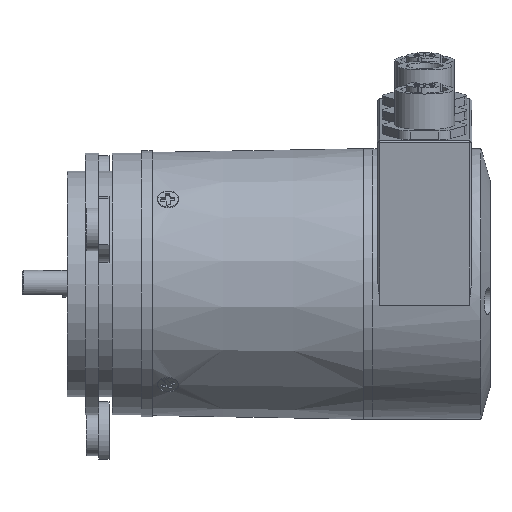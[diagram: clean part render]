
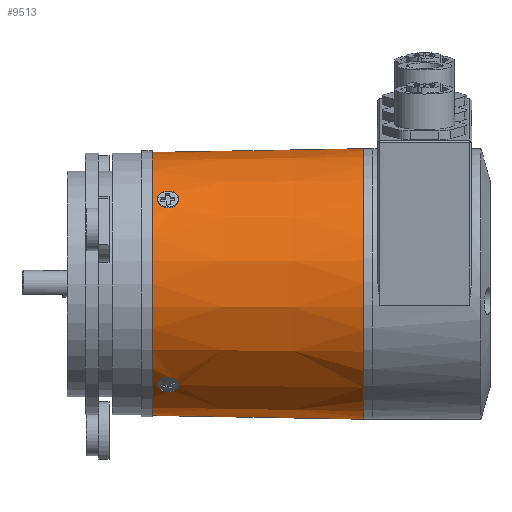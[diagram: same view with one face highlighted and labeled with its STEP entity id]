
A CAD part, left-side view. The second image highlights one B-rep face of the part: STEP entity #9513.
In plain terms, the highlighted conical face has half-angle 1 degrees and reference radius 30 mm.
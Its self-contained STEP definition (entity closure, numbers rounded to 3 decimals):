
#58=B_SPLINE_CURVE_WITH_KNOTS('',3,(#15645,#15646,#15647,#15648,#15649,
#15650,#15651),.UNSPECIFIED.,.F.,.F.,(4,1,1,1,4),(0.,0.25,0.5,0.75,1.),
 .UNSPECIFIED.);
#62=B_SPLINE_CURVE_WITH_KNOTS('',3,(#15713,#15714,#15715,#15716),
 .UNSPECIFIED.,.F.,.F.,(4,4),(0.,1.),.UNSPECIFIED.);
#63=B_SPLINE_CURVE_WITH_KNOTS('',3,(#15718,#15719,#15720,#15721,#15722,
#15723,#15724),.UNSPECIFIED.,.F.,.F.,(4,1,1,1,4),(0.,0.25,0.5,0.75,1.),
 .UNSPECIFIED.);
#66=B_SPLINE_CURVE_WITH_KNOTS('',3,(#15786,#15787,#15788,#15789,#15790,
#15791,#15792),.UNSPECIFIED.,.F.,.F.,(4,1,1,1,4),(0.,0.25,0.5,0.75,1.),
 .UNSPECIFIED.);
#69=B_SPLINE_CURVE_WITH_KNOTS('',3,(#15864,#15865,#15866,#15867,#15868,
#15869,#15870),.UNSPECIFIED.,.F.,.F.,(4,1,1,1,4),(0.,0.25,0.5,0.75,1.),
 .UNSPECIFIED.);
#70=B_SPLINE_CURVE_WITH_KNOTS('',3,(#15872,#15873,#15874,#15875),
 .UNSPECIFIED.,.F.,.F.,(4,4),(0.,1.),.UNSPECIFIED.);
#84=B_SPLINE_CURVE_WITH_KNOTS('',3,(#16076,#16077,#16078,#16079,#16080,
#16081,#16082),.UNSPECIFIED.,.F.,.F.,(4,1,1,1,4),(0.,0.25,0.5,0.75,1.),
 .UNSPECIFIED.);
#85=B_SPLINE_CURVE_WITH_KNOTS('',3,(#16083,#16084,#16085,#16086,#16087,
#16088,#16089),.UNSPECIFIED.,.F.,.F.,(4,1,1,1,4),(0.,0.25,0.5,0.75,1.),
 .UNSPECIFIED.);
#86=B_SPLINE_CURVE_WITH_KNOTS('',3,(#16090,#16091,#16092,#16093,#16094,
#16095,#16096),.UNSPECIFIED.,.F.,.F.,(4,1,1,1,4),(0.,0.25,0.5,0.75,1.),
 .UNSPECIFIED.);
#87=B_SPLINE_CURVE_WITH_KNOTS('',3,(#16098,#16099,#16100,#16101),
 .UNSPECIFIED.,.F.,.F.,(4,4),(0.,1.),.UNSPECIFIED.);
#88=B_SPLINE_CURVE_WITH_KNOTS('',3,(#16106,#16107,#16108,#16109),
 .UNSPECIFIED.,.F.,.F.,(4,4),(0.,1.),.UNSPECIFIED.);
#89=B_SPLINE_CURVE_WITH_KNOTS('',3,(#16111,#16112,#16113,#16114,#16115,
#16116,#16117),.UNSPECIFIED.,.F.,.F.,(4,1,1,1,4),(0.,0.25,0.5,0.75,1.),
 .UNSPECIFIED.);
#105=CONICAL_SURFACE('',#10579,30.,0.017);
#3175=ORIENTED_EDGE('',*,*,#5025,.T.);
#3176=ORIENTED_EDGE('',*,*,#5070,.T.);
#3177=ORIENTED_EDGE('',*,*,#5014,.T.);
#3178=ORIENTED_EDGE('',*,*,#5071,.T.);
#3179=ORIENTED_EDGE('',*,*,#5072,.T.);
#3180=ORIENTED_EDGE('',*,*,#5073,.T.);
#3181=ORIENTED_EDGE('',*,*,#5020,.T.);
#3182=ORIENTED_EDGE('',*,*,#5019,.T.);
#3183=ORIENTED_EDGE('',*,*,#5074,.F.);
#3184=ORIENTED_EDGE('',*,*,#5075,.T.);
#3185=ORIENTED_EDGE('',*,*,#5076,.T.);
#3186=ORIENTED_EDGE('',*,*,#5077,.T.);
#3187=ORIENTED_EDGE('',*,*,#5031,.T.);
#3188=ORIENTED_EDGE('',*,*,#5030,.T.);
#5014=EDGE_CURVE('',#6102,#6101,#58,.T.);
#5019=EDGE_CURVE('',#6107,#6106,#62,.T.);
#5020=EDGE_CURVE('',#6108,#6107,#63,.T.);
#5025=EDGE_CURVE('',#6113,#6112,#66,.T.);
#5030=EDGE_CURVE('',#6118,#6117,#69,.T.);
#5031=EDGE_CURVE('',#6119,#6118,#70,.T.);
#5070=EDGE_CURVE('',#6112,#6113,#84,.T.);
#5071=EDGE_CURVE('',#6101,#6102,#85,.T.);
#5072=EDGE_CURVE('',#6106,#6152,#86,.T.);
#5073=EDGE_CURVE('',#6152,#6108,#87,.T.);
#5074=EDGE_CURVE('',#6153,#6153,#6852,.T.);
#5075=EDGE_CURVE('',#6154,#6154,#6853,.T.);
#5076=EDGE_CURVE('',#6117,#6155,#88,.T.);
#5077=EDGE_CURVE('',#6155,#6119,#89,.T.);
#6101=VERTEX_POINT('',#15644);
#6102=VERTEX_POINT('',#15652);
#6106=VERTEX_POINT('',#15712);
#6107=VERTEX_POINT('',#15717);
#6108=VERTEX_POINT('',#15725);
#6112=VERTEX_POINT('',#15785);
#6113=VERTEX_POINT('',#15793);
#6117=VERTEX_POINT('',#15863);
#6118=VERTEX_POINT('',#15871);
#6119=VERTEX_POINT('',#15876);
#6152=VERTEX_POINT('',#16097);
#6153=VERTEX_POINT('',#16103);
#6154=VERTEX_POINT('',#16105);
#6155=VERTEX_POINT('',#16110);
#6852=CIRCLE('',#10580,29.181);
#6853=CIRCLE('',#10581,30.);
#7539=EDGE_LOOP('',(#3175,#3176));
#7540=EDGE_LOOP('',(#3177,#3178));
#7541=EDGE_LOOP('',(#3179,#3180,#3181,#3182));
#7542=EDGE_LOOP('',(#3183));
#7543=EDGE_LOOP('',(#3184));
#7544=EDGE_LOOP('',(#3185,#3186,#3187,#3188));
#8457=FACE_BOUND('',#7539,.T.);
#8458=FACE_BOUND('',#7540,.T.);
#8459=FACE_BOUND('',#7541,.T.);
#8460=FACE_BOUND('',#7542,.T.);
#8461=FACE_BOUND('',#7543,.T.);
#8462=FACE_BOUND('',#7544,.T.);
#9513=ADVANCED_FACE('',(#8457,#8458,#8459,#8460,#8461,#8462),#105,.T.);
#10579=AXIS2_PLACEMENT_3D('',#16075,#12664,#12665);
#10580=AXIS2_PLACEMENT_3D('',#16102,#12666,#12667);
#10581=AXIS2_PLACEMENT_3D('',#16104,#12668,#12669);
#12664=DIRECTION('',(0.,-1.,0.));
#12665=DIRECTION('',(-0.643,0.,-0.766));
#12666=DIRECTION('',(0.,1.,0.));
#12667=DIRECTION('',(-0.643,0.,-0.766));
#12668=DIRECTION('',(0.,1.,0.));
#12669=DIRECTION('',(-0.643,0.,-0.766));
#15644=CARTESIAN_POINT('',(1.081,-4.246,-9.866));
#15645=CARTESIAN_POINT('',(3.7,-6.975,-6.819));
#15646=CARTESIAN_POINT('',(3.909,-6.461,-6.516));
#15647=CARTESIAN_POINT('',(4.059,-5.144,-6.257));
#15648=CARTESIAN_POINT('',(3.393,-3.439,-7.157));
#15649=CARTESIAN_POINT('',(2.117,-3.006,-8.737));
#15650=CARTESIAN_POINT('',(1.33,-3.73,-9.594));
#15651=CARTESIAN_POINT('',(1.081,-4.246,-9.866));
#15652=CARTESIAN_POINT('',(3.7,-6.975,-6.819));
#15712=CARTESIAN_POINT('',(-40.004,-3.891,-10.838));
#15713=CARTESIAN_POINT('',(-38.727,-3.222,-11.959));
#15714=CARTESIAN_POINT('',(-39.231,-3.223,-11.536));
#15715=CARTESIAN_POINT('',(-39.654,-3.446,-11.157));
#15716=CARTESIAN_POINT('',(-40.004,-3.891,-10.838));
#15717=CARTESIAN_POINT('',(-38.727,-3.222,-11.959));
#15718=CARTESIAN_POINT('',(-37.44,-7.329,-13.067));
#15719=CARTESIAN_POINT('',(-37.147,-6.991,-13.278));
#15720=CARTESIAN_POINT('',(-36.748,-6.139,-13.542));
#15721=CARTESIAN_POINT('',(-36.837,-4.661,-13.449));
#15722=CARTESIAN_POINT('',(-37.602,-3.516,-12.874));
#15723=CARTESIAN_POINT('',(-38.345,-3.221,-12.279));
#15724=CARTESIAN_POINT('',(-38.727,-3.222,-11.959));
#15725=CARTESIAN_POINT('',(-37.44,-7.329,-13.067));
#15785=CARTESIAN_POINT('',(-43.578,-4.246,27.608));
#15786=CARTESIAN_POINT('',(-41.032,-6.975,30.716));
#15787=CARTESIAN_POINT('',(-41.294,-7.488,30.457));
#15788=CARTESIAN_POINT('',(-42.1,-8.213,29.616));
#15789=CARTESIAN_POINT('',(-43.364,-7.783,28.03));
#15790=CARTESIAN_POINT('',(-43.985,-6.079,27.089));
#15791=CARTESIAN_POINT('',(-43.802,-4.761,27.316));
#15792=CARTESIAN_POINT('',(-43.578,-4.246,27.608));
#15793=CARTESIAN_POINT('',(-41.032,-6.975,30.716));
#15863=CARTESIAN_POINT('',(-2.513,-3.891,33.842));
#15864=CARTESIAN_POINT('',(-1.134,-7.998,32.843));
#15865=CARTESIAN_POINT('',(-1.516,-7.998,33.164));
#15866=CARTESIAN_POINT('',(-2.264,-7.705,33.75));
#15867=CARTESIAN_POINT('',(-3.054,-6.561,34.294));
#15868=CARTESIAN_POINT('',(-3.179,-5.083,34.349));
#15869=CARTESIAN_POINT('',(-2.8,-4.23,34.063));
#15870=CARTESIAN_POINT('',(-2.513,-3.891,33.842));
#15871=CARTESIAN_POINT('',(-1.134,-7.998,32.843));
#15872=CARTESIAN_POINT('',(0.128,-7.329,31.705));
#15873=CARTESIAN_POINT('',(-0.196,-7.753,32.02));
#15874=CARTESIAN_POINT('',(-0.655,-7.997,32.441));
#15875=CARTESIAN_POINT('',(-1.134,-7.998,32.843));
#15876=CARTESIAN_POINT('',(0.128,-7.329,31.705));
#16075=CARTESIAN_POINT('',(-19.957,-49.022,10.41));
#16076=CARTESIAN_POINT('',(-43.578,-4.246,27.608));
#16077=CARTESIAN_POINT('',(-43.355,-3.731,27.9));
#16078=CARTESIAN_POINT('',(-42.646,-3.006,28.824));
#16079=CARTESIAN_POINT('',(-41.313,-3.439,30.355));
#16080=CARTESIAN_POINT('',(-40.542,-5.143,31.167));
#16081=CARTESIAN_POINT('',(-40.771,-6.462,30.975));
#16082=CARTESIAN_POINT('',(-41.032,-6.975,30.716));
#16083=CARTESIAN_POINT('',(1.081,-4.246,-9.866));
#16084=CARTESIAN_POINT('',(0.833,-4.76,-10.136));
#16085=CARTESIAN_POINT('',(0.64,-6.079,-10.357));
#16086=CARTESIAN_POINT('',(1.459,-7.782,-9.581));
#16087=CARTESIAN_POINT('',(2.802,-8.214,-8.062));
#16088=CARTESIAN_POINT('',(3.491,-7.488,-7.121));
#16089=CARTESIAN_POINT('',(3.7,-6.975,-6.819));
#16090=CARTESIAN_POINT('',(-40.004,-3.891,-10.838));
#16091=CARTESIAN_POINT('',(-40.271,-4.23,-10.594));
#16092=CARTESIAN_POINT('',(-40.619,-5.082,-10.27));
#16093=CARTESIAN_POINT('',(-40.543,-6.562,-10.384));
#16094=CARTESIAN_POINT('',(-39.87,-7.705,-11.066));
#16095=CARTESIAN_POINT('',(-39.162,-7.998,-11.702));
#16096=CARTESIAN_POINT('',(-38.781,-7.998,-12.022));
#16097=CARTESIAN_POINT('',(-38.781,-7.998,-12.022));
#16098=CARTESIAN_POINT('',(-38.781,-7.998,-12.022));
#16099=CARTESIAN_POINT('',(-38.301,-7.997,-12.425));
#16100=CARTESIAN_POINT('',(-37.807,-7.753,-12.804));
#16101=CARTESIAN_POINT('',(-37.44,-7.329,-13.067));
#16102=CARTESIAN_POINT('',(-19.957,-2.122,10.41));
#16103=CARTESIAN_POINT('',(-38.715,-2.122,-11.944));
#16104=CARTESIAN_POINT('',(-19.957,-49.022,10.41));
#16105=CARTESIAN_POINT('',(-39.241,-49.022,-12.571));
#16106=CARTESIAN_POINT('',(-2.513,-3.891,33.842));
#16107=CARTESIAN_POINT('',(-2.155,-3.465,33.566));
#16108=CARTESIAN_POINT('',(-1.668,-3.222,33.182));
#16109=CARTESIAN_POINT('',(-1.187,-3.222,32.779));
#16110=CARTESIAN_POINT('',(-1.187,-3.222,32.779));
#16111=CARTESIAN_POINT('',(-1.187,-3.222,32.779));
#16112=CARTESIAN_POINT('',(-0.805,-3.222,32.458));
#16113=CARTESIAN_POINT('',(-0.091,-3.516,31.83));
#16114=CARTESIAN_POINT('',(0.609,-4.661,31.177));
#16115=CARTESIAN_POINT('',(0.715,-6.138,31.105));
#16116=CARTESIAN_POINT('',(0.387,-6.991,31.453));
#16117=CARTESIAN_POINT('',(0.128,-7.329,31.705));
